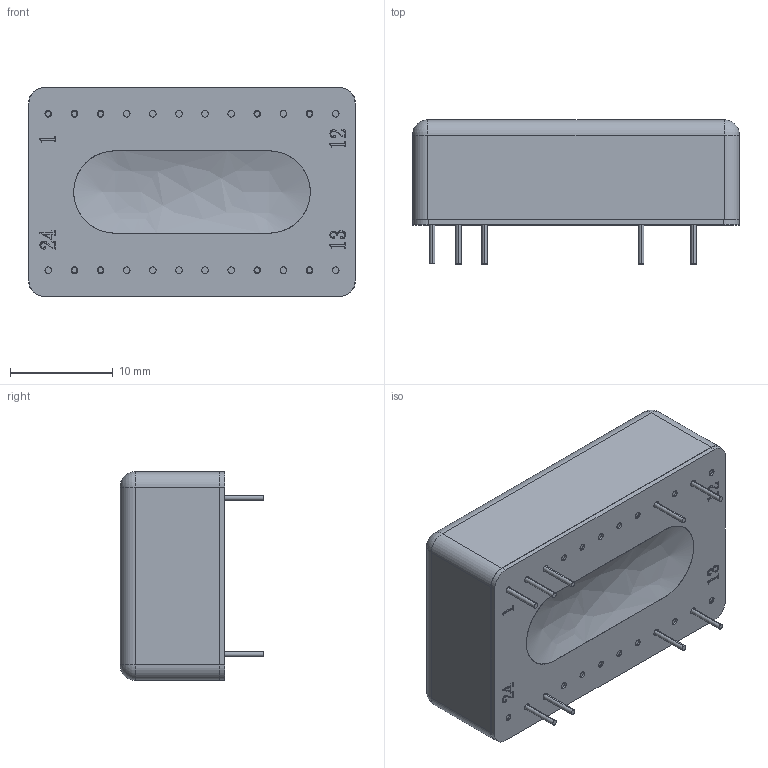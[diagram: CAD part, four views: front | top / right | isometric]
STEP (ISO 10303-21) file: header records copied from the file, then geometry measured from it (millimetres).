
FILE_DESCRIPTION (( 'STEP AP214' ), '1' );
FILE_NAME ('RDDW08組合圖 -1060104.STEP', '2020-05-21T03:38:17', ( '' ), ( '' ), 'SwSTEP 2.0', 'SolidWorks 2017', '' );
FILE_SCHEMA (( 'AUTOMOTIVE_DESIGN' ));
Length unit declared in the file: millimetre
Products named in the file (4): RDDW08-IN-1060104; RDDW08組合圖 -1060104; RDDW08 BASE-1060104; RDDW08 CASE-1060104
Assembly tree (3 placements, depth 2):
  RDDW08組合圖 -1060104
    RDDW08 BASE-1060104
    RDDW08 CASE-1060104
    RDDW08-IN-1060104
Bounding box: 31.8 x 14 x 20.3 mm (x, y, z)
Volume: 6448.7 mm3; surface area: 6402.1 mm2
Topology: 3 solids, 3 shells, 447 faces, 1125 edges, 716 vertices
Faces by surface type: cylinder 150, plane 136, bspline 101, cone 48, sphere 12
Entity records: 16885 total; most frequent: CARTESIAN_POINT 6094, ORIENTED_EDGE 2226, DIRECTION 1953, EDGE_CURVE 1113, VERTEX_POINT 716, AXIS2_PLACEMENT_3D 702, VECTOR 549, LINE 549
